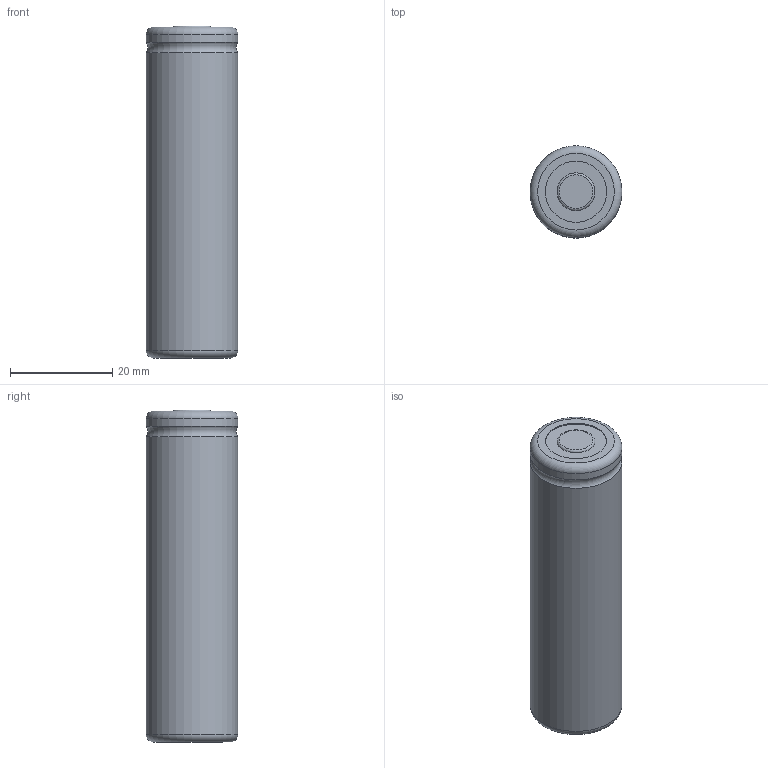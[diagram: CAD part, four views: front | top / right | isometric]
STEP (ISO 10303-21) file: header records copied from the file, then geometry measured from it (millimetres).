
FILE_DESCRIPTION(('FreeCAD Model'),'2;1');
FILE_NAME('Open CASCADE Shape Model','2022-11-10T08:53:50',(''),(''), 'Open CASCADE STEP processor 7.6','FreeCAD','Unknown');
FILE_SCHEMA(('CONFIG_CONTROL_DESIGN','SHAPE_APPEARANCE_LAYER_MIM'));
Length unit declared in the file: millimetre
Products named in the file (3): Body; Body001; Body002
Bounding box: 18 x 18 x 65 mm (x, y, z)
Volume: 16356.5 mm3; surface area: 9132.9 mm2
Topology: 3 solids, 3 shells, 18 faces, 28 edges, 17 vertices
Faces by surface type: plane 7, cylinder 7, torus 4
Full cylindrical faces by diameter (mm): 7.4 x2, 12 x3, 18 x2
Entity records: 532 total; most frequent: DIRECTION 87, CARTESIAN_POINT 64, ORIENTED_EDGE 56, AXIS2_PLACEMENT_3D 40, EDGE_CURVE 28, FACE_BOUND 23, EDGE_LOOP 23, CIRCLE 21
